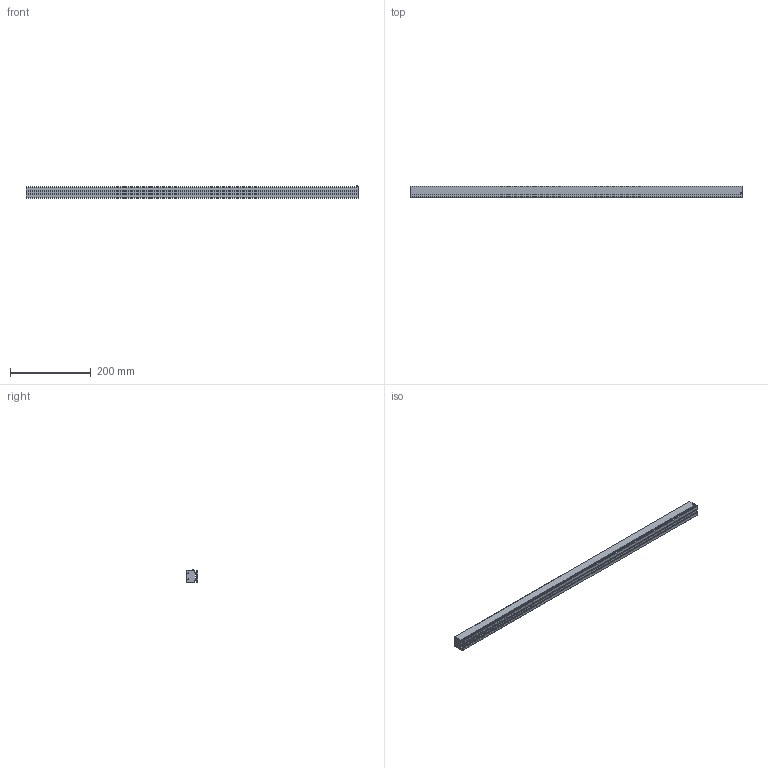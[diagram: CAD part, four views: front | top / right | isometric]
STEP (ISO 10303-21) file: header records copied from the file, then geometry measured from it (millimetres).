
FILE_DESCRIPTION (( 'STEP AP203' ), '1' );
FILE_NAME ('LRD-B4-820.STEP', '2022-08-22T07:09:58', ( 'TNT' ), ( '' ), 'SwSTEP 2.0', 'SolidWorks 2018', '' );
FILE_SCHEMA (( 'CONFIG_CONTROL_DESIGN' ));
Length unit declared in the file: millimetre
Products named in the file (1): LRD-B4-820
Bounding box: 820 x 27.7 x 30.6 mm (x, y, z)
Volume: 537182 mm3; surface area: 148687 mm2
Topology: 1 solids, 1 shells, 66 faces, 178 edges, 112 vertices
Faces by surface type: plane 48, cylinder 10, cone 8
Entity records: 2059 total; most frequent: CARTESIAN_POINT 349, ORIENTED_EDGE 340, DIRECTION 324, EDGE_CURVE 170, VECTOR 150, LINE 150, VERTEX_POINT 112, AXIS2_PLACEMENT_3D 87
